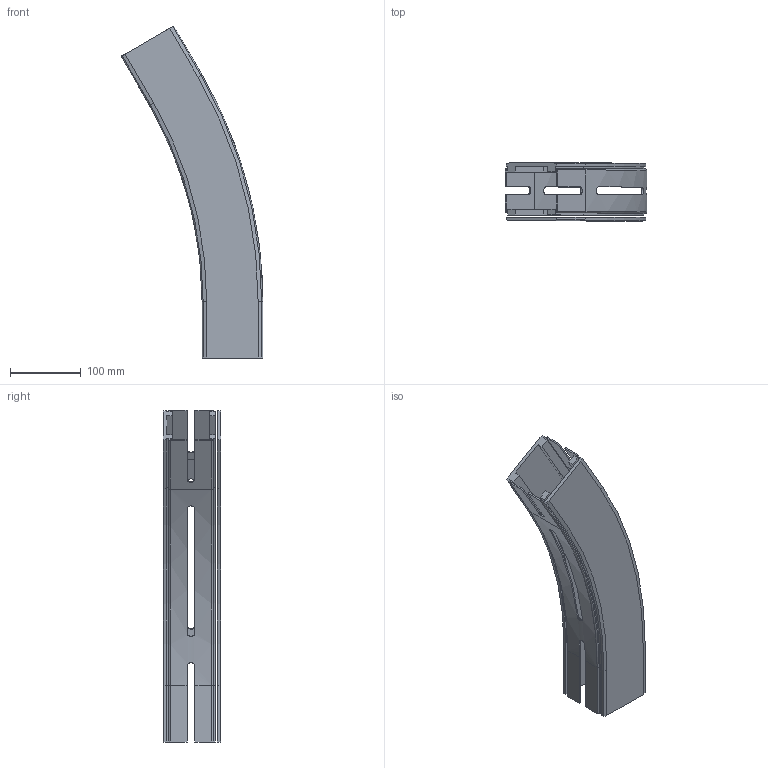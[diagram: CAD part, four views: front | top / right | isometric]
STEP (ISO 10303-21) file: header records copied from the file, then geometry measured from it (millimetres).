
FILE_DESCRIPTION(/* description */ ('GLIDKURVA SERIE 530'),/* implementation_level */ '2;1');
FILE_NAME(/* name */ '530-5375+830-2000-01.stp',/* time_stamp */ '2022-09-20T15:39:12+02:00',/* author */ ('Mathias.Dore'),/* organization */ ('CARRYLINE'),/* preprocessor_version */ 'ST-DEVELOPER v19.2',/* originating_system */ 'Autodesk Inventor 2023',/* authorisation */ '');
FILE_SCHEMA (('AUTOMOTIVE_DESIGN { 1 0 10303 214 3 1 1 }'));
Length unit declared in the file: millimetre
Products named in the file (1): 530-5375+830-2000-01
Bounding box: 200.62 x 82 x 470.78 mm (x, y, z)
Volume: 686782.7 mm3; surface area: 329910.9 mm2
Topology: 2 solids, 2 shells, 171 faces, 470 edges, 308 vertices
Faces by surface type: plane 113, cylinder 30, bspline 20, torus 4, cone 4
Entity records: 5869 total; most frequent: CARTESIAN_POINT 1470, ORIENTED_EDGE 940, DIRECTION 818, EDGE_CURVE 470, LINE 346, VECTOR 346, VERTEX_POINT 308, AXIS2_PLACEMENT_3D 236
